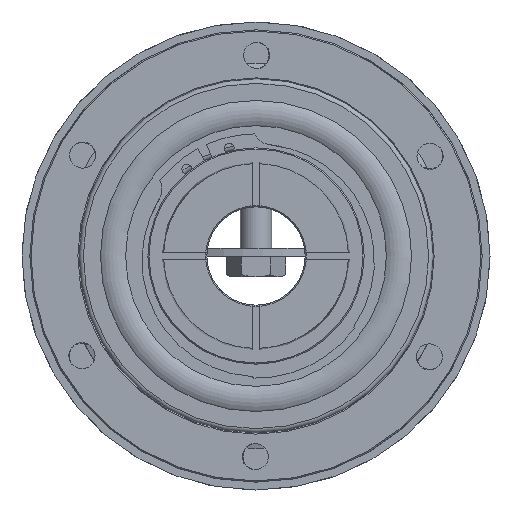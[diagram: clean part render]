
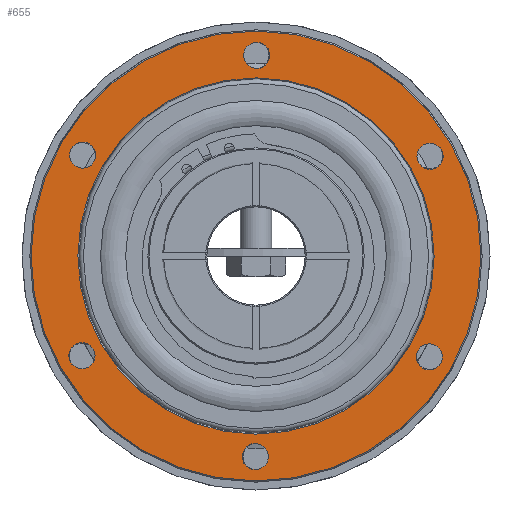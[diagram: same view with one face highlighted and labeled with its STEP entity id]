
A CAD part, left-side view. The second image highlights one B-rep face of the part: STEP entity #655.
In plain terms, the highlighted planar face has unit normal (-1, 0, 0).
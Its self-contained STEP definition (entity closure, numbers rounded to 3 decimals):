
#655 = ADVANCED_FACE( '', ( #1230, #1231, #1232, #1233, #1234, #1235, #1236, #1237 ), #1238, .F. );
#1230 = FACE_OUTER_BOUND( '', #1734, .T. );
#1231 = FACE_BOUND( '', #1735, .T. );
#1232 = FACE_BOUND( '', #1736, .T. );
#1233 = FACE_BOUND( '', #1737, .T. );
#1234 = FACE_BOUND( '', #1738, .T. );
#1235 = FACE_BOUND( '', #1739, .T. );
#1236 = FACE_BOUND( '', #1740, .T. );
#1237 = FACE_BOUND( '', #1741, .T. );
#1238 = PLANE( '', #1742 );
#1734 = EDGE_LOOP( '', ( #2698 ) );
#1735 = EDGE_LOOP( '', ( #2699 ) );
#1736 = EDGE_LOOP( '', ( #2700 ) );
#1737 = EDGE_LOOP( '', ( #2701 ) );
#1738 = EDGE_LOOP( '', ( #2702 ) );
#1739 = EDGE_LOOP( '', ( #2703 ) );
#1740 = EDGE_LOOP( '', ( #2704 ) );
#1741 = EDGE_LOOP( '', ( #2705 ) );
#1742 = AXIS2_PLACEMENT_3D( '', #2706, #2707, #2708 );
#2698 = ORIENTED_EDGE( '', *, *, #3124, .T. );
#2699 = ORIENTED_EDGE( '', *, *, #3125, .T. );
#2700 = ORIENTED_EDGE( '', *, *, #3126, .T. );
#2701 = ORIENTED_EDGE( '', *, *, #3117, .T. );
#2702 = ORIENTED_EDGE( '', *, *, #3121, .T. );
#2703 = ORIENTED_EDGE( '', *, *, #3127, .T. );
#2704 = ORIENTED_EDGE( '', *, *, #3128, .T. );
#2705 = ORIENTED_EDGE( '', *, *, #3129, .T. );
#2706 = CARTESIAN_POINT( '', ( -21.05, 57.5, 0. ) );
#2707 = DIRECTION( '', ( 1., 0., 0. ) );
#2708 = DIRECTION( '', ( 0., 1., 0. ) );
#3117 = EDGE_CURVE( '', #3567, #3567, #3568, .T. );
#3121 = EDGE_CURVE( '', #3575, #3575, #3576, .T. );
#3124 = EDGE_CURVE( '', #3581, #3581, #3582, .T. );
#3125 = EDGE_CURVE( '', #3583, #3583, #3584, .T. );
#3126 = EDGE_CURVE( '', #3585, #3585, #3586, .T. );
#3127 = EDGE_CURVE( '', #3587, #3587, #3588, .T. );
#3128 = EDGE_CURVE( '', #3589, #3589, #3590, .T. );
#3129 = EDGE_CURVE( '', #3591, #3591, #3592, .T. );
#3567 = VERTEX_POINT( '', #4407 );
#3568 = CIRCLE( '', #4408, 3.324 );
#3575 = VERTEX_POINT( '', #4415 );
#3576 = CIRCLE( '', #4416, 3.324 );
#3581 = VERTEX_POINT( '', #4421 );
#3582 = CIRCLE( '', #4422, 57.2 );
#3583 = VERTEX_POINT( '', #4423 );
#3584 = CIRCLE( '', #4424, 45.3 );
#3585 = VERTEX_POINT( '', #4425 );
#3586 = CIRCLE( '', #4426, 3.324 );
#3587 = VERTEX_POINT( '', #4427 );
#3588 = CIRCLE( '', #4428, 3.324 );
#3589 = VERTEX_POINT( '', #4429 );
#3590 = CIRCLE( '', #4430, 3.324 );
#3591 = VERTEX_POINT( '', #4431 );
#3592 = CIRCLE( '', #4432, 3.324 );
#4407 = CARTESIAN_POINT( '', ( -21.05, 47.046, -27.162 ) );
#4408 = AXIS2_PLACEMENT_3D( '', #4943, #4944, #4945 );
#4415 = CARTESIAN_POINT( '', ( -21.05, 0., -54.324 ) );
#4416 = AXIS2_PLACEMENT_3D( '', #4955, #4956, #4957 );
#4421 = CARTESIAN_POINT( '', ( -21.05, 0., -57.2 ) );
#4422 = AXIS2_PLACEMENT_3D( '', #4964, #4965, #4966 );
#4423 = CARTESIAN_POINT( '', ( -21.05, 0., -45.3 ) );
#4424 = AXIS2_PLACEMENT_3D( '', #4967, #4968, #4969 );
#4425 = CARTESIAN_POINT( '', ( -21.05, 47.046, 27.162 ) );
#4426 = AXIS2_PLACEMENT_3D( '', #4970, #4971, #4972 );
#4427 = CARTESIAN_POINT( '', ( -21.05, -47.046, -27.162 ) );
#4428 = AXIS2_PLACEMENT_3D( '', #4973, #4974, #4975 );
#4429 = CARTESIAN_POINT( '', ( -21.05, -47.046, 27.162 ) );
#4430 = AXIS2_PLACEMENT_3D( '', #4976, #4977, #4978 );
#4431 = CARTESIAN_POINT( '', ( -21.05, 0., 54.324 ) );
#4432 = AXIS2_PLACEMENT_3D( '', #4979, #4980, #4981 );
#4943 = CARTESIAN_POINT( '', ( -21.05, 44.167, -25.5 ) );
#4944 = DIRECTION( '', ( 1., 0., 0. ) );
#4945 = DIRECTION( '', ( 0., 0.866, -0.5 ) );
#4955 = CARTESIAN_POINT( '', ( -21.05, 0., -51. ) );
#4956 = DIRECTION( '', ( 1., 0., 0. ) );
#4957 = DIRECTION( '', ( 0., 0., -1. ) );
#4964 = CARTESIAN_POINT( '', ( -21.05, 0., 0. ) );
#4965 = DIRECTION( '', ( -1., 0., 0. ) );
#4966 = DIRECTION( '', ( 0., 0., -1. ) );
#4967 = CARTESIAN_POINT( '', ( -21.05, 0., 0. ) );
#4968 = DIRECTION( '', ( 1., 0., 0. ) );
#4969 = DIRECTION( '', ( 0., 0., -1. ) );
#4970 = CARTESIAN_POINT( '', ( -21.05, 44.167, 25.5 ) );
#4971 = DIRECTION( '', ( 1., 0., 0. ) );
#4972 = DIRECTION( '', ( 0., 0.866, 0.5 ) );
#4973 = CARTESIAN_POINT( '', ( -21.05, -44.167, -25.5 ) );
#4974 = DIRECTION( '', ( 1., 0., 0. ) );
#4975 = DIRECTION( '', ( 0., -0.866, -0.5 ) );
#4976 = CARTESIAN_POINT( '', ( -21.05, -44.167, 25.5 ) );
#4977 = DIRECTION( '', ( 1., 0., 0. ) );
#4978 = DIRECTION( '', ( 0., -0.866, 0.5 ) );
#4979 = CARTESIAN_POINT( '', ( -21.05, 0., 51. ) );
#4980 = DIRECTION( '', ( 1., 0., 0. ) );
#4981 = DIRECTION( '', ( 0., 0., 1. ) );
